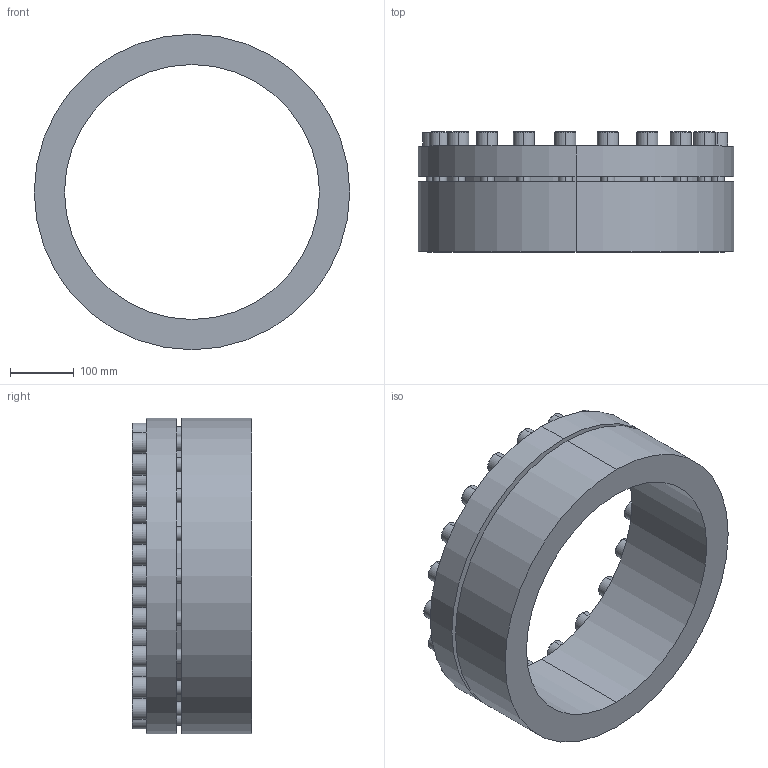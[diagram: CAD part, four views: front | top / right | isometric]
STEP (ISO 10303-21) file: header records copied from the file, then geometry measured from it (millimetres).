
FILE_DESCRIPTION (( 'STEP AP203' ), '1' );
FILE_NAME ('PL-H2 400-495.STEP', '2021-10-23T01:09:50', ( '' ), ( '' ), 'SwSTEP 2.0', 'SolidWorks 2018', '' );
FILE_SCHEMA (( 'CONFIG_CONTROL_DESIGN' ));
Length unit declared in the file: millimetre
Products named in the file (1): PL-H2 400-495
Bounding box: 495 x 188 x 495 mm (x, y, z)
Volume: 11049506.7 mm3; surface area: 763709.3 mm2
Topology: 1 solids, 1 shells, 306 faces, 738 edges, 478 vertices
Faces by surface type: plane 172, cylinder 92, torus 42
Entity records: 9099 total; most frequent: DIRECTION 1620, CARTESIAN_POINT 1523, ORIENTED_EDGE 1476, EDGE_CURVE 738, AXIS2_PLACEMENT_3D 575, VERTEX_POINT 478, VECTOR 470, LINE 470
